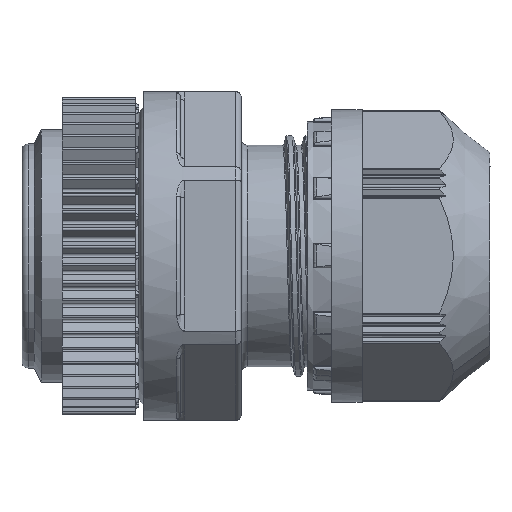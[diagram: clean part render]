
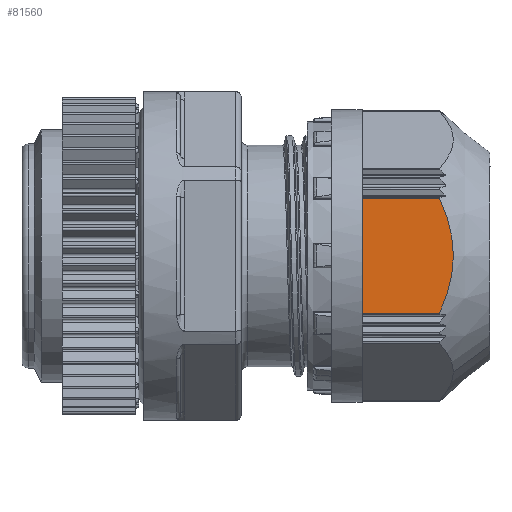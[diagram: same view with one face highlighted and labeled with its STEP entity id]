
A CAD part, top view. The second image highlights one B-rep face of the part: STEP entity #81560.
In plain terms, the highlighted planar face has unit normal (0, 0, 1).
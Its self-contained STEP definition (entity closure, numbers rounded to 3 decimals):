
#1730=CARTESIAN_POINT('',(91.572,57.591,
0.));
#1740=DIRECTION('',(-1.,0.,0.));
#1750=DIRECTION('',(0.,-0.866,
0.5));
#1760=AXIS2_PLACEMENT_3D('',#1730,#1740,#1750);
#1770=CONICAL_SURFACE('',#1760,13.501,0.695);
#44970=CARTESIAN_POINT('',(93.416,62.297,
11.));
#44980=VERTEX_POINT('',#44970);
#45010=CARTESIAN_POINT('',(87.074,62.297,11.));
#45020=DIRECTION('',(1.,0.,0.));
#45030=VECTOR('',#45020,1.);
#45040=LINE('',#45010,#45030);
#45050=CARTESIAN_POINT('',(87.074,62.297,
11.));
#45060=VERTEX_POINT('',#45050);
#45070=EDGE_CURVE('',#45060,#44980,#45040,.T.);
#80460=CARTESIAN_POINT('',(87.074,52.884,11.));
#80470=DIRECTION('',(0.,-0.,1.));
#80480=DIRECTION('',(0.,1.,0.));
#80490=AXIS2_PLACEMENT_3D('',#80460,#80470,#80480);
#80500=PLANE('',#80490);
#80510=ORIENTED_EDGE('',*,*,#45070,.F.);
#80520=CARTESIAN_POINT('',(93.416,52.884,11.));
#80530=CARTESIAN_POINT('',(93.503,53.067,11.));
#80540=CARTESIAN_POINT('',(93.586,53.253,11.));
#80550=CARTESIAN_POINT('',(93.665,53.44,11.));
#80560=CARTESIAN_POINT('',(93.745,53.628,11.));
#80570=CARTESIAN_POINT('',(93.82,53.818,11.));
#80580=CARTESIAN_POINT('',(93.892,54.009,11.));
#80590=CARTESIAN_POINT('',(93.927,54.105,11.));
#80600=CARTESIAN_POINT('',(93.962,54.201,11.));
#80610=CARTESIAN_POINT('',(93.995,54.298,11.));
#80620=CARTESIAN_POINT('',(94.028,54.394,11.));
#80630=CARTESIAN_POINT('',(94.06,54.492,11.));
#80640=CARTESIAN_POINT('',(94.091,54.589,11.));
#80650=CARTESIAN_POINT('',(94.122,54.687,11.));
#80660=CARTESIAN_POINT('',(94.151,54.784,11.));
#80670=CARTESIAN_POINT('',(94.18,54.883,11.));
#80680=CARTESIAN_POINT('',(94.208,54.981,11.));
#80690=CARTESIAN_POINT('',(94.235,55.079,11.));
#80700=CARTESIAN_POINT('',(94.26,55.178,11.));
#80710=CARTESIAN_POINT('',(94.285,55.277,11.));
#80720=CARTESIAN_POINT('',(94.309,55.376,11.));
#80730=CARTESIAN_POINT('',(94.332,55.476,11.));
#80740=CARTESIAN_POINT('',(94.354,55.575,11.));
#80750=CARTESIAN_POINT('',(94.376,55.675,11.));
#80760=CARTESIAN_POINT('',(94.395,55.775,11.));
#80770=CARTESIAN_POINT('',(94.415,55.875,11.));
#80780=CARTESIAN_POINT('',(94.433,55.975,11.));
#80790=CARTESIAN_POINT('',(94.449,56.075,11.));
#80800=CARTESIAN_POINT('',(94.465,56.176,11.));
#80810=CARTESIAN_POINT('',(94.48,56.276,11.));
#80820=CARTESIAN_POINT('',(94.494,56.377,11.));
#80830=CARTESIAN_POINT('',(94.507,56.477,11.));
#80840=CARTESIAN_POINT('',(94.518,56.578,
11.));
#80850=CARTESIAN_POINT('',(94.528,56.679,
11.));
#80860=CARTESIAN_POINT('',(94.538,56.78,
11.));
#80870=CARTESIAN_POINT('',(94.547,56.881,11.));
#80880=CARTESIAN_POINT('',(94.553,56.982,11.));
#80890=CARTESIAN_POINT('',(94.56,57.083,11.));
#80900=CARTESIAN_POINT('',(94.565,57.185,11.));
#80910=CARTESIAN_POINT('',(94.569,57.286,11.));
#80920=CARTESIAN_POINT('',(94.572,57.388,11.));
#80930=CARTESIAN_POINT('',(94.574,57.489,11.));
#80940=CARTESIAN_POINT('',(94.574,57.591,11.));
#80950=CARTESIAN_POINT('',(94.574,57.693,11.));
#80960=CARTESIAN_POINT('',(94.572,57.795,
11.));
#80970=CARTESIAN_POINT('',(94.569,57.897,
11.));
#80980=CARTESIAN_POINT('',(94.565,57.999,
11.));
#80990=CARTESIAN_POINT('',(94.56,58.1,
11.));
#81000=CARTESIAN_POINT('',(94.553,58.202,
11.));
#81010=CARTESIAN_POINT('',(94.546,58.304,
11.));
#81020=CARTESIAN_POINT('',(94.538,58.406,11.));
#81030=CARTESIAN_POINT('',(94.528,58.508,11.));
#81040=CARTESIAN_POINT('',(94.518,58.609,11.));
#81050=CARTESIAN_POINT('',(94.506,58.711,11.));
#81060=CARTESIAN_POINT('',(94.492,58.812,11.));
#81070=CARTESIAN_POINT('',(94.479,58.914,11.));
#81080=CARTESIAN_POINT('',(94.464,59.015,11.));
#81090=CARTESIAN_POINT('',(94.447,59.116,11.));
#81100=CARTESIAN_POINT('',(94.431,59.217,11.));
#81110=CARTESIAN_POINT('',(94.413,59.317,11.));
#81120=CARTESIAN_POINT('',(94.393,59.418,11.));
#81130=CARTESIAN_POINT('',(94.373,59.518,11.));
#81140=CARTESIAN_POINT('',(94.352,59.618,11.));
#81150=CARTESIAN_POINT('',(94.329,59.717,11.));
#81160=CARTESIAN_POINT('',(94.306,59.817,11.));
#81170=CARTESIAN_POINT('',(94.282,59.916,11.));
#81180=CARTESIAN_POINT('',(94.257,60.015,11.));
#81190=CARTESIAN_POINT('',(94.231,60.113,11.));
#81200=CARTESIAN_POINT('',(94.205,60.212,
11.));
#81210=CARTESIAN_POINT('',(94.176,60.309,
11.));
#81220=CARTESIAN_POINT('',(94.148,60.407,
11.));
#81230=CARTESIAN_POINT('',(94.119,60.504,11.));
#81240=CARTESIAN_POINT('',(94.088,60.601,11.));
#81250=CARTESIAN_POINT('',(94.027,60.794,11.));
#81260=CARTESIAN_POINT('',(93.961,60.985,11.));
#81270=CARTESIAN_POINT('',(93.89,61.175,11.));
#81280=CARTESIAN_POINT('',(93.82,61.365,11.));
#81290=CARTESIAN_POINT('',(93.745,61.554,11.));
#81300=CARTESIAN_POINT('',(93.665,61.741,11.));
#81310=CARTESIAN_POINT('',(93.586,61.928,11.));
#81320=CARTESIAN_POINT('',(93.503,62.113,11.));
#81330=CARTESIAN_POINT('',(93.416,62.297,11.));
#81340=B_SPLINE_CURVE_WITH_KNOTS('',3,(#80520,#80530,#80540,#80550,
#80560,#80570,#80580,#80590,#80600,#80610,#80620,#80630,#80640,#80650,
#80660,#80670,#80680,#80690,#80700,#80710,#80720,#80730,#80740,#80750,
#80760,#80770,#80780,#80790,#80800,#80810,#80820,#80830,#80840,#80850,
#80860,#80870,#80880,#80890,#80900,#80910,#80920,#80930,#80940,#80950,
#80960,#80970,#80980,#80990,#81000,#81010,#81020,#81030,#81040,#81050,
#81060,#81070,#81080,#81090,#81100,#81110,#81120,#81130,#81140,#81150,
#81160,#81170,#81180,#81190,#81200,#81210,#81220,#81230,#81240,#81250,
#81260,#81270,#81280,#81290,#81300,#81310,#81320,#81330),.UNSPECIFIED.,
.F.,.F.,(4,3,3,3,3,3,3,3,3,3,3,3,3,3,3,3,3,3,3,3,3,3,3,3,3,3,3,4),(0.,
0.61,1.222,1.529,1.835,
2.142,2.448,2.754,3.06,
3.365,3.67,3.975,4.279,
4.583,4.888,5.194,5.5,
5.806,6.113,6.42,6.726,
7.033,7.339,7.644,7.948,
8.556,9.165,9.775),.UNSPECIFIED.);
#81350=SURFACE_CURVE('',#81340,(#80500,#1770),.CURVE_3D.);
#81360=CARTESIAN_POINT('',(93.416,52.884,11.));
#81370=VERTEX_POINT('',#81360);
#81380=EDGE_CURVE('',#81370,#44980,#81350,.T.);
#81390=ORIENTED_EDGE('',*,*,#81380,.T.);
#81400=CARTESIAN_POINT('',(87.074,52.884,11.));
#81410=DIRECTION('',(1.,0.,0.));
#81420=VECTOR('',#81410,1.);
#81430=LINE('',#81400,#81420);
#81440=CARTESIAN_POINT('',(87.074,52.884,11.));
#81450=VERTEX_POINT('',#81440);
#81460=EDGE_CURVE('',#81450,#81370,#81430,.T.);
#81470=ORIENTED_EDGE('',*,*,#81460,.T.);
#81480=CARTESIAN_POINT('',(87.074,56.987,11.));
#81490=DIRECTION('',(0.,-1.,0.));
#81500=VECTOR('',#81490,1.);
#81510=LINE('',#81480,#81500);
#81520=EDGE_CURVE('',#45060,#81450,#81510,.T.);
#81530=ORIENTED_EDGE('',*,*,#81520,.T.);
#81540=EDGE_LOOP('',(#81530,#81470,#81390,#80510));
#81550=FACE_OUTER_BOUND('',#81540,.T.);
#81560=ADVANCED_FACE('',(#81550),#80500,.T.);
